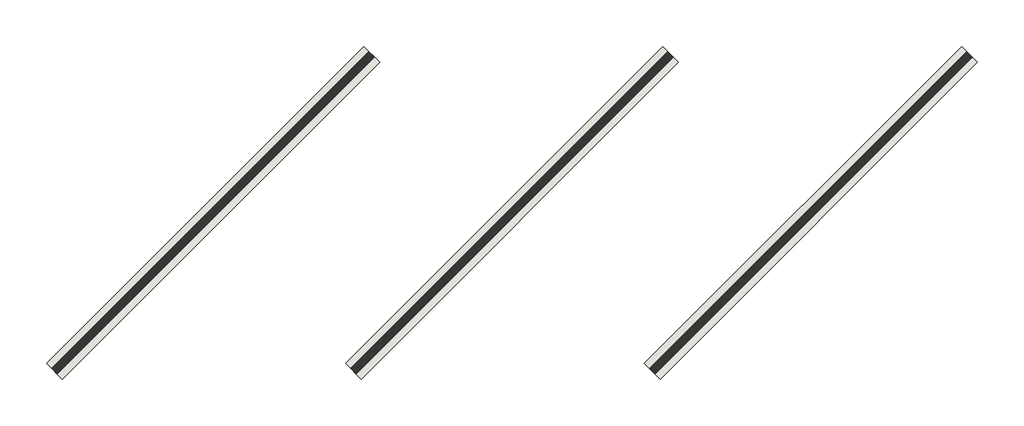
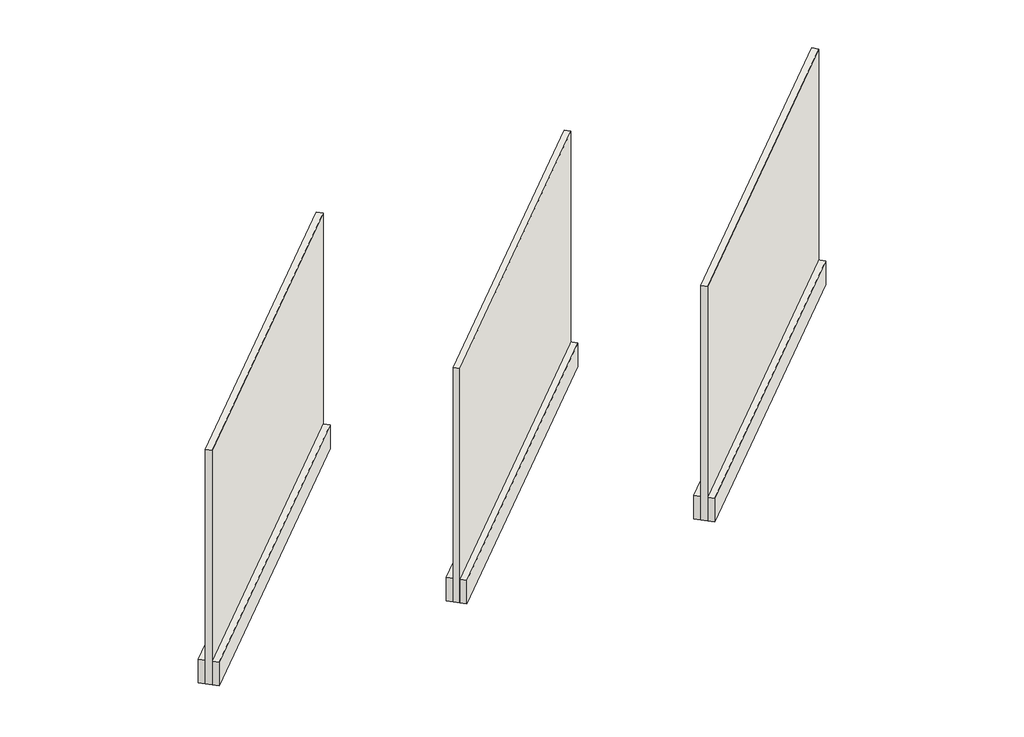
# One storey: 6 walls.
"""IFC4 building model written with IfcOpenShell, lengths in millimetres."""

import ifcopenshell
import ifcopenshell.guid

model = None  # the IFC model being written
_history = None  # IfcOwnerHistory: only IFC2X3 demands one
_inside = {}  # id of a spatial element -> (the spatial element, [elements in it])
_under = {}  # id of a project, library or spatial element -> (it, [spatial elements below it])
_declared = {}  # id of a project -> (the project, [libraries it declares])
_typed = {}  # id of a type object -> (the type object, [elements of that type])
_made_of = {}  # id of a material, layer set ... -> (it, [elements and type objects made of it])


def new_model(schema):
    """Start an empty IFC model of exactly this schema.

    Asked for "IFC4X3", IfcOpenShell would pick the latest addendum, in which some entities
    have other attributes; the version numbers below select the first issue.
    IFC2X3 requires an IfcOwnerHistory on every rooted entity: one is made here for all.
    """
    global model, _history
    if schema == "IFC4X3":
        model = ifcopenshell.file(schema_version=(4, 3, 0, 0))
    else:
        model = ifcopenshell.file(schema=schema)
    _inside.clear()
    _under.clear()
    _declared.clear()
    _typed.clear()
    _made_of.clear()
    _history = None
    if model.schema == "IFC2X3":
        org = make("IfcOrganization", Name="unknown")
        user = make(
            "IfcPersonAndOrganization",
            ThePerson=make("IfcPerson", FamilyName="unknown"),
            TheOrganization=org,
        )
        app = make(
            "IfcApplication",
            ApplicationDeveloper=org,
            Version="unknown",
            ApplicationFullName="unknown",
            ApplicationIdentifier="unknown",
        )
        _history = make(
            "IfcOwnerHistory",
            OwningUser=user,
            OwningApplication=app,
            ChangeAction="ADDED",
            CreationDate=0,
        )
    return model


def make(cls, **values):
    """One entity of the class cls with the attributes given. An attribute that is None is left unset."""
    return model.create_entity(
        cls, **{name: value for name, value in values.items() if value is not None}
    )


def rooted(cls, **values):
    """An entity with a GlobalId (a new one), such as an element, a storey or a relation."""
    return make(cls, GlobalId=ifcopenshell.guid.new(), OwnerHistory=_history, **values)


def si_unit(unit_type, name, prefix=None):
    """IfcSIUnit, for example si_unit("LENGTHUNIT", "METRE", prefix="MILLI")."""
    return make("IfcSIUnit", UnitType=unit_type, Prefix=prefix, Name=name)


def assignment(units):
    """IfcUnitAssignment: the units of a project."""
    return None if units is None else make("IfcUnitAssignment", Units=units)


def point(xyz):
    """IfcCartesianPoint."""
    return None if xyz is None else make("IfcCartesianPoint", Coordinates=xyz)


def direction(xyz):
    """IfcDirection."""
    return None if xyz is None else make("IfcDirection", DirectionRatios=xyz)


def frame(location, z_axis=None, x_axis=None):
    """IfcAxis2Placement3D, a coordinate frame: its origin and axes. An axis left out is left unset."""
    return make(
        "IfcAxis2Placement3D",
        Location=point(location),
        Axis=direction(z_axis),
        RefDirection=direction(x_axis),
    )


def origin():
    """The frame at (0, 0, 0) with its axes left unset."""
    return frame((0.0, 0.0, 0.0))


def origin_with_axes():
    """The frame at (0, 0, 0) with the z axis (0, 0, 1) and the x axis (1, 0, 0) written out."""
    return frame((0.0, 0.0, 0.0), z_axis=(0.0, 0.0, 1.0), x_axis=(1.0, 0.0, 0.0))


def place(relative_to, where):
    """IfcLocalPlacement: puts the frame where relative to a parent placement (None: the world)."""
    return make(
        "IfcLocalPlacement", PlacementRelTo=relative_to, RelativePlacement=where
    )


def context(
    kind, dimensions, precision=None, world=None, true_north=None, identifier=None
):
    """IfcGeometricRepresentationContext, for example the 3D "Model" context."""
    return make(
        "IfcGeometricRepresentationContext",
        ContextIdentifier=identifier,
        ContextType=kind,
        CoordinateSpaceDimension=dimensions,
        Precision=precision,
        WorldCoordinateSystem=world,
        TrueNorth=true_north,
    )


def project(units=None, contexts=None):
    """IfcProject with its units and contexts."""
    return rooted(
        "IfcProject",
        Name="project",
        RepresentationContexts=contexts,
        UnitsInContext=assignment(units),
    )


def spatial(cls, under=None, at=None, **own):
    """A site, building, storey or space (cls), placed at a placement, below another one or the project."""
    s = rooted(cls, ObjectPlacement=at, **own)
    if under is not None:
        _under.setdefault(under.id(), (under, []))[1].append(s)
    return s


def polyline(points):
    """IfcPolyline through the points."""
    return make("IfcPolyline", Points=[point(p) for p in points])


def outline(outer, holes=None, kind="AREA"):
    """IfcArbitraryClosedProfileDef: a profile drawn as a closed curve; with holes, ...WithVoids."""
    if holes is None:
        return make("IfcArbitraryClosedProfileDef", ProfileType=kind, OuterCurve=outer)
    return make(
        "IfcArbitraryProfileDefWithVoids",
        ProfileType=kind,
        OuterCurve=outer,
        InnerCurves=holes,
    )


def extrude(swept, where, along, depth):
    """IfcExtrudedAreaSolid: the profile swept, set in the frame where, extruded along a direction by depth."""
    return make(
        "IfcExtrudedAreaSolid",
        SweptArea=swept,
        Position=where,
        ExtrudedDirection=direction(along),
        Depth=depth,
    )


def shape(context_of_items, identifier, shape_type, items):
    """IfcShapeRepresentation: the items that make up one representation, for example the "Body"."""
    return make(
        "IfcShapeRepresentation",
        ContextOfItems=context_of_items,
        RepresentationIdentifier=identifier,
        RepresentationType=shape_type,
        Items=items,
    )


def made_of(thing, what):
    """Note that an element or type object is made of a material, layer set ...; save() writes the relation."""
    if what is not None:
        _made_of.setdefault(what.id(), (what, []))[1].append(thing)
    return thing


def element(
    cls,
    number,
    at=None,
    inside=None,
    cuts=None,
    type_object=None,
    material=None,
    context=None,
    identifier="Body",
    shape_type=None,
    held_by="IfcProductDefinitionShape",
    body=None,
    shapes=None,
    **own,
):
    """One element of the class cls, such as IfcWall. Its Tag is "e" and its number.

    at: its placement. inside: the storey or other place that contains it. cuts: it is an
    opening in that element (IfcRelVoidsElement). A single representation is given by context,
    identifier, shape_type and body (its items); several are given by shapes. held_by: the class
    of the entity that holds the representations. save() writes the other relations.
    """
    e = rooted(cls, Tag="e%d" % number, ObjectPlacement=at, **own)
    if body is not None:
        shapes = [shape(context, identifier, shape_type, body)]
    if shapes is not None:
        e.Representation = make(held_by, Representations=shapes)
    if inside is not None:
        _inside.setdefault(inside.id(), (inside, []))[1].append(e)
    if cuts is not None:
        rooted(
            "IfcRelVoidsElement", RelatingBuildingElement=cuts, RelatedOpeningElement=e
        )
    if type_object is not None:
        _typed.setdefault(type_object.id(), (type_object, []))[1].append(e)
    return made_of(e, material)


def aggregate(whole, parts):
    """IfcRelAggregates: a whole, such as a stair, and the parts it consists of."""
    return rooted("IfcRelAggregates", RelatingObject=whole, RelatedObjects=parts)


def save(model, path):
    """Write the relations noted so far, then the file.

    IfcRelAggregates (storeys below a building ...), IfcRelContainedInSpatialStructure (elements
    in a storey), IfcRelDefinesByType, IfcRelAssociatesMaterial and IfcRelDeclares: one each for
    every whole, place, type object, material and project.
    """
    for whole, parts in _under.values():
        aggregate(whole, parts)
    for where, things in _inside.values():
        rooted(
            "IfcRelContainedInSpatialStructure",
            RelatedElements=things,
            RelatingStructure=where,
        )
    for kind, things in _typed.values():
        rooted("IfcRelDefinesByType", RelatedObjects=things, RelatingType=kind)
    for what, things in _made_of.values():
        rooted("IfcRelAssociatesMaterial", RelatedObjects=things, RelatingMaterial=what)
    for by, libraries in _declared.values():
        rooted("IfcRelDeclares", RelatingContext=by, RelatedDefinitions=libraries)
    model.write(path)


model = new_model("IFC4")

# Units and contexts
model_context = context("Model", 3, world=origin())
ifc_project = project(units=[si_unit("LENGTHUNIT", "METRE", prefix="MILLI")], contexts=[model_context])

# Site, building, storey
site = spatial("IfcSite", under=ifc_project)
building = spatial("IfcBuilding", under=site)
storey = spatial("IfcBuildingStorey", under=building, Name="Southern Ledge Pioneer Stone", Elevation=0.0)

# Walls
placement = place(None, origin())
element("IfcWall", 1, ObjectType="Flatwood_Southern Ledge", at=placement, inside=storey, context=model_context, shape_type="SweptSolid", body=[
    extrude(outline(polyline([(-16771.4654192, 8506.1818358), (-20004.3576228, 5273.2896322), (-20058.2391595, 5327.1711689), (-16825.3469559, 8560.0633725), (-16771.4654192, 8506.1818358)])), origin_with_axes(), (0.0, 0.0, 1.0), 3048.0),
])
element("IfcWall", 2, ObjectType="Bucks Creek_Southern Ledge", at=placement, inside=storey, context=model_context, shape_type="SweptSolid", body=[
    extrude(outline(polyline([(-19819.4654192, 8506.1818358), (-23052.3576228, 5273.2896322), (-23106.2391595, 5327.1711689), (-19873.3469559, 8560.0633725), (-19819.4654192, 8506.1818358)])), origin_with_axes(), (0.0, 0.0, 1.0), 3048.0),
])
element("IfcWall", 3, ObjectType="Nappanee_Southern Ledge", at=placement, inside=storey, context=model_context, shape_type="SweptSolid", body=[
    extrude(outline(polyline([(-13723.4654192, 8506.1818358), (-16956.3576228, 5273.2896322), (-17010.2391595, 5327.1711689), (-13777.3469559, 8560.0633725), (-13723.4654192, 8506.1818358)])), origin_with_axes(), (0.0, 0.0, 1.0), 3048.0),
])
element("IfcWall", 4, ObjectType="Generic 9\"", at=placement, inside=storey, context=model_context, shape_type="SweptSolid", body=[
    extrude(outline(polyline([(-19765.5838825, 8452.3002991), (-22998.4760861, 5219.4080955), (-23160.1206962, 5381.0527057), (-19927.2284927, 8613.9449092), (-19765.5838825, 8452.3002991)])), origin_with_axes(), (0.0, 0.0, 1.0), 304.8),
])
element("IfcWall", 5, ObjectType="Generic 9\"", at=placement, inside=storey, context=model_context, shape_type="SweptSolid", body=[
    extrude(outline(polyline([(-16717.5838825, 8452.3002991), (-19950.4760861, 5219.4080955), (-20112.1206962, 5381.0527057), (-16879.2284927, 8613.9449092), (-16717.5838825, 8452.3002991)])), origin_with_axes(), (0.0, 0.0, 1.0), 304.8),
])
element("IfcWall", 6, ObjectType="Generic 9\"", at=placement, inside=storey, context=model_context, shape_type="SweptSolid", body=[
    extrude(outline(polyline([(-13669.5838825, 8452.3002991), (-16902.4760861, 5219.4080955), (-17064.1206962, 5381.0527057), (-13831.2284927, 8613.9449092), (-13669.5838825, 8452.3002991)])), origin_with_axes(), (0.0, 0.0, 1.0), 304.8),
])

save(model, "model.ifc")
